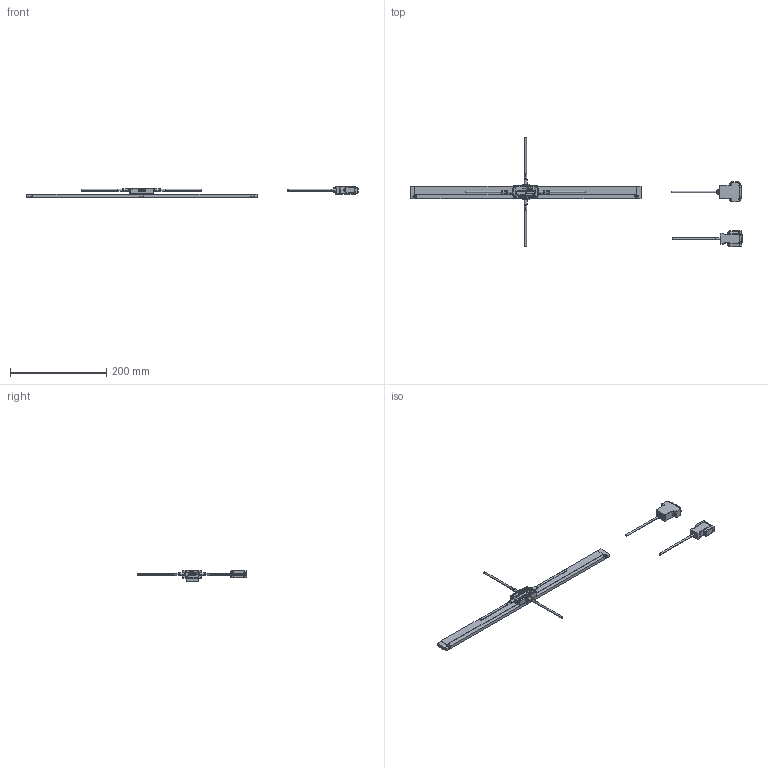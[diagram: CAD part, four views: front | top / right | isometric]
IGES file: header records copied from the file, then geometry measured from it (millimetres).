
Start section: Elysium IGES Interface
Global section: file name: 77H\\Utsu119s\kiyo_cad\data\3D\ST700_小型\HP掲載用_201802\PKG\ABS_ST700-400A.igs; native system: Creo Elements/Direct Modeling 18.1B  29-Sep-2012; preprocessor: Creo Element/Direct IGES_3D V2.2; author: Unknown; organization: Unknown; date: 20180214.110518; units: millimetre
Bounding box: 689.3 x 227.7 x 23.3 mm (x, y, z)
Volume: 192068.7 mm3; surface area: 69765.9 mm2
Topology: 7 solids, 7 shells, 6644 faces, 18185 edges, 11983 vertices
Faces by surface type: bspline 6644
